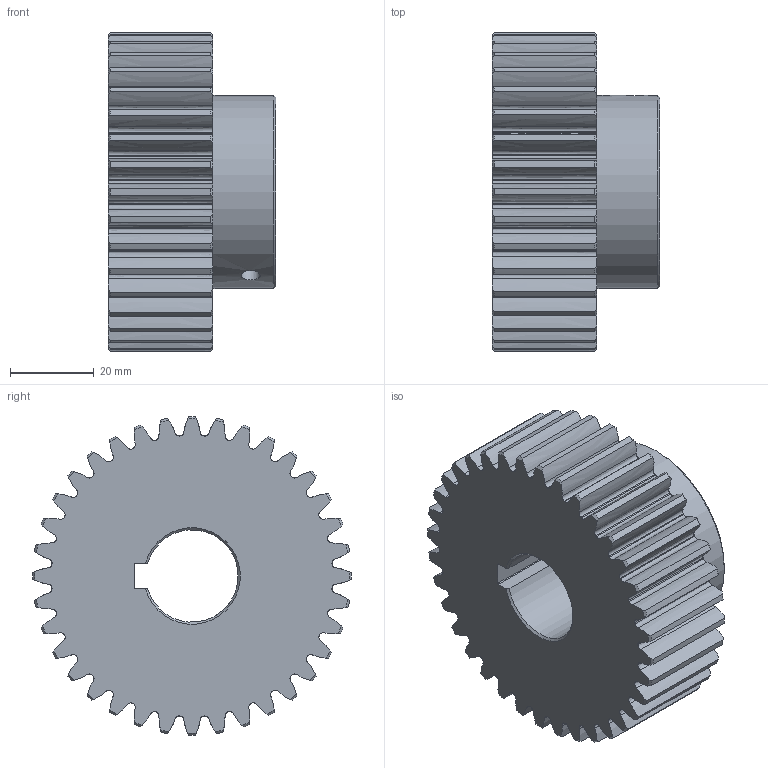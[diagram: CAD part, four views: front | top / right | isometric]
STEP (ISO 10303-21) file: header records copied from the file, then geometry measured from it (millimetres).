
FILE_DESCRIPTION(('STEP AP214'), '1');
FILE_NAME('GS2-T36D22 - Øåñòåðíÿ', '2018-06-14T08:02:06', (''), (''), 'ASCON STEP Converter 1.3', 'ASCON Math Kernel', '');
FILE_SCHEMA(('AUTOMOTIVE_DESIGN { 1 0 10303 214 3 1 1}'));
Length unit declared in the file: millimetre
Products named in the file (1): GS2-T36D22
Bounding box: 40 x 76 x 76 mm (x, y, z)
Volume: 109688.4 mm3; surface area: 23591.4 mm2
Topology: 1 solids, 1 shells, 303 faces, 901 edges, 603 vertices
Faces by surface type: extrusion 144, cylinder 78, cone 75, plane 6
Full cylindrical faces by diameter (mm): 4.134 x1, 4.458 x1, 46 x1
Entity records: 15838 total; most frequent: CARTESIAN_POINT 5746, ORIENTED_EDGE 1790, DIRECTION 1148, EDGE_CURVE 895, VERTEX_POINT 599, B_SPLINE_CURVE_WITH_KNOTS 583, AXIS2_PLACEMENT_3D 388, VECTOR 372
